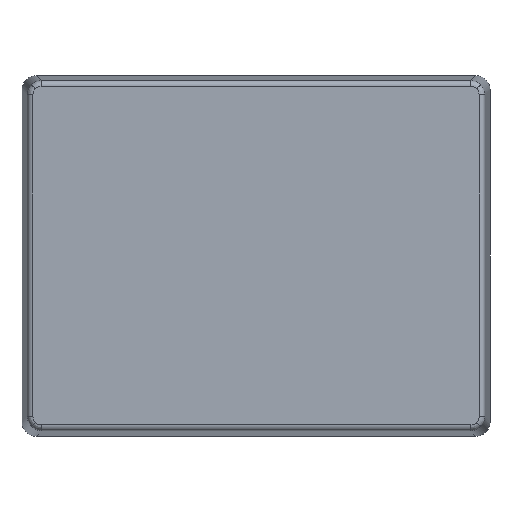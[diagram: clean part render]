
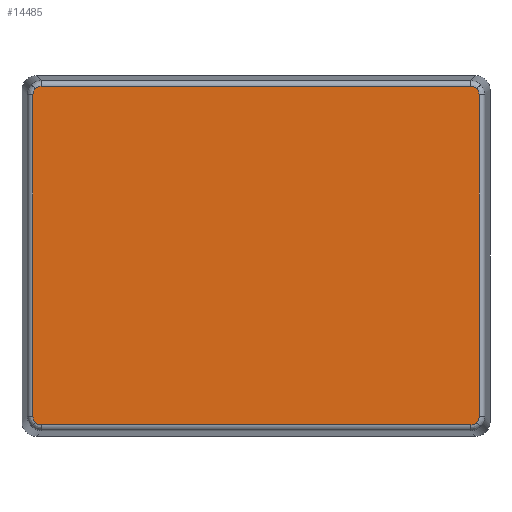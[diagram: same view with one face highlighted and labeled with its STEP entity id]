
A CAD part, top view. The second image highlights one B-rep face of the part: STEP entity #14485.
In plain terms, the highlighted planar face has unit normal (0, 0, 1).
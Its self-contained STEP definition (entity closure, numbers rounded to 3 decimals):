
#534=LINE('',#21788,#1626);
#535=LINE('',#21796,#1627);
#536=LINE('',#21804,#1628);
#537=LINE('',#21812,#1629);
#1626=VECTOR('',#16517,151.708);
#1627=VECTOR('',#16518,113.708);
#1628=VECTOR('',#16519,151.708);
#1629=VECTOR('',#16520,113.708);
#2626=PLANE('',#15389);
#2913=(
BOUNDED_CURVE()
B_SPLINE_CURVE(3,(#19455,#19456,#19457,#19458,#19459,#19460),
 .UNSPECIFIED.,.F.,.F.)
B_SPLINE_CURVE_WITH_KNOTS((4,2,4),(5.498,5.891,6.283),
 .UNSPECIFIED.)
CURVE()
GEOMETRIC_REPRESENTATION_ITEM()
RATIONAL_B_SPLINE_CURVE((1.,1.,1.,1.,1.,1.))
REPRESENTATION_ITEM('')
);
#2914=(
BOUNDED_CURVE()
B_SPLINE_CURVE(3,(#19492,#19493,#19494,#19495,#19496,#19497),
 .UNSPECIFIED.,.F.,.F.)
B_SPLINE_CURVE_WITH_KNOTS((4,2,4),(5.498,5.891,6.283),
 .UNSPECIFIED.)
CURVE()
GEOMETRIC_REPRESENTATION_ITEM()
RATIONAL_B_SPLINE_CURVE((1.,1.,1.,1.,1.,1.))
REPRESENTATION_ITEM('')
);
#2915=(
BOUNDED_CURVE()
B_SPLINE_CURVE(3,(#19529,#19530,#19531,#19532,#19533,#19534),
 .UNSPECIFIED.,.F.,.F.)
B_SPLINE_CURVE_WITH_KNOTS((4,2,4),(5.498,5.891,6.283),
 .UNSPECIFIED.)
CURVE()
GEOMETRIC_REPRESENTATION_ITEM()
RATIONAL_B_SPLINE_CURVE((1.,1.,1.,1.,1.,1.))
REPRESENTATION_ITEM('')
);
#2916=(
BOUNDED_CURVE()
B_SPLINE_CURVE(3,(#19566,#19567,#19568,#19569,#19570,#19571),
 .UNSPECIFIED.,.F.,.F.)
B_SPLINE_CURVE_WITH_KNOTS((4,2,4),(5.498,5.891,6.283),
 .UNSPECIFIED.)
CURVE()
GEOMETRIC_REPRESENTATION_ITEM()
RATIONAL_B_SPLINE_CURVE((1.,1.,1.,1.,1.,1.))
REPRESENTATION_ITEM('')
);
#2917=(
BOUNDED_CURVE()
B_SPLINE_CURVE(3,(#21790,#21791,#21792,#21793,#21794,#21795),
 .UNSPECIFIED.,.F.,.F.)
B_SPLINE_CURVE_WITH_KNOTS((4,2,4),(0.,0.393,0.785),
 .UNSPECIFIED.)
CURVE()
GEOMETRIC_REPRESENTATION_ITEM()
RATIONAL_B_SPLINE_CURVE((1.,1.,1.,1.,1.,1.))
REPRESENTATION_ITEM('')
);
#2918=(
BOUNDED_CURVE()
B_SPLINE_CURVE(3,(#21798,#21799,#21800,#21801,#21802,#21803),
 .UNSPECIFIED.,.F.,.F.)
B_SPLINE_CURVE_WITH_KNOTS((4,2,4),(0.,0.393,0.785),
 .UNSPECIFIED.)
CURVE()
GEOMETRIC_REPRESENTATION_ITEM()
RATIONAL_B_SPLINE_CURVE((1.,1.,1.,1.,1.,1.))
REPRESENTATION_ITEM('')
);
#2919=(
BOUNDED_CURVE()
B_SPLINE_CURVE(3,(#21806,#21807,#21808,#21809,#21810,#21811),
 .UNSPECIFIED.,.F.,.F.)
B_SPLINE_CURVE_WITH_KNOTS((4,2,4),(0.,0.393,
0.785),.UNSPECIFIED.)
CURVE()
GEOMETRIC_REPRESENTATION_ITEM()
RATIONAL_B_SPLINE_CURVE((1.,1.,1.,1.,1.,1.))
REPRESENTATION_ITEM('')
);
#2920=(
BOUNDED_CURVE()
B_SPLINE_CURVE(3,(#21813,#21814,#21815,#21816,#21817,#21818),
 .UNSPECIFIED.,.F.,.F.)
B_SPLINE_CURVE_WITH_KNOTS((4,2,4),(0.,0.393,0.785),
 .UNSPECIFIED.)
CURVE()
GEOMETRIC_REPRESENTATION_ITEM()
RATIONAL_B_SPLINE_CURVE((1.,1.,1.,1.,1.,1.))
REPRESENTATION_ITEM('')
);
#3897=FACE_OUTER_BOUND('',#4792,.T.);
#4792=EDGE_LOOP('',(#10156,#10157,#10158,#10159,#10160,#10161,#10162,#10163,
#10164,#10165,#10166,#10167));
#6162=VERTEX_POINT('',#19452);
#6163=VERTEX_POINT('',#19454);
#6166=VERTEX_POINT('',#19489);
#6167=VERTEX_POINT('',#19491);
#6170=VERTEX_POINT('',#19526);
#6171=VERTEX_POINT('',#19528);
#6174=VERTEX_POINT('',#19563);
#6175=VERTEX_POINT('',#19565);
#6409=VERTEX_POINT('',#21787);
#6410=VERTEX_POINT('',#21789);
#6411=VERTEX_POINT('',#21797);
#6412=VERTEX_POINT('',#21805);
#7641=EDGE_CURVE('',#6163,#6162,#2913,.T.);
#7645=EDGE_CURVE('',#6167,#6166,#2914,.T.);
#7649=EDGE_CURVE('',#6171,#6170,#2915,.T.);
#7653=EDGE_CURVE('',#6175,#6174,#2916,.T.);
#7892=EDGE_CURVE('',#6409,#6163,#534,.T.);
#7893=EDGE_CURVE('',#6162,#6410,#2917,.T.);
#7894=EDGE_CURVE('',#6410,#6167,#535,.T.);
#7895=EDGE_CURVE('',#6166,#6411,#2918,.T.);
#7896=EDGE_CURVE('',#6411,#6175,#536,.T.);
#7897=EDGE_CURVE('',#6174,#6412,#2919,.T.);
#7898=EDGE_CURVE('',#6412,#6171,#537,.T.);
#7899=EDGE_CURVE('',#6170,#6409,#2920,.T.);
#10156=ORIENTED_EDGE('',*,*,#7892,.T.);
#10157=ORIENTED_EDGE('',*,*,#7641,.T.);
#10158=ORIENTED_EDGE('',*,*,#7893,.T.);
#10159=ORIENTED_EDGE('',*,*,#7894,.T.);
#10160=ORIENTED_EDGE('',*,*,#7645,.T.);
#10161=ORIENTED_EDGE('',*,*,#7895,.T.);
#10162=ORIENTED_EDGE('',*,*,#7896,.T.);
#10163=ORIENTED_EDGE('',*,*,#7653,.T.);
#10164=ORIENTED_EDGE('',*,*,#7897,.T.);
#10165=ORIENTED_EDGE('',*,*,#7898,.T.);
#10166=ORIENTED_EDGE('',*,*,#7649,.T.);
#10167=ORIENTED_EDGE('',*,*,#7899,.T.);
#14485=ADVANCED_FACE('',(#3897),#2626,.T.);
#15389=AXIS2_PLACEMENT_3D('',#21786,#16515,#16516);
#16515=DIRECTION('center_axis',(0.,0.,1.));
#16516=DIRECTION('ref_axis',(1.,0.,0.));
#16517=DIRECTION('',(-1.,0.,0.));
#16518=DIRECTION('',(0.,-1.,0.));
#16519=DIRECTION('',(1.,0.,0.));
#16520=DIRECTION('',(0.,1.,0.));
#19452=CARTESIAN_POINT('',(-77.975,58.975,72.5));
#19454=CARTESIAN_POINT('',(-75.854,59.853,72.5));
#19455=CARTESIAN_POINT('Ctrl Pts',(-75.854,59.853,72.5));
#19456=CARTESIAN_POINT('Ctrl Pts',(-76.247,59.853,72.5));
#19457=CARTESIAN_POINT('Ctrl Pts',(-76.639,59.775,72.5));
#19458=CARTESIAN_POINT('Ctrl Pts',(-77.365,59.475,72.5));
#19459=CARTESIAN_POINT('Ctrl Pts',(-77.697,59.253,72.5));
#19460=CARTESIAN_POINT('Ctrl Pts',(-77.975,58.975,72.5));
#19489=CARTESIAN_POINT('',(-77.975,-58.975,72.5));
#19491=CARTESIAN_POINT('',(-78.853,-56.854,72.5));
#19492=CARTESIAN_POINT('Ctrl Pts',(-78.853,-56.854,
72.5));
#19493=CARTESIAN_POINT('Ctrl Pts',(-78.853,-57.247,
72.5));
#19494=CARTESIAN_POINT('Ctrl Pts',(-78.775,-57.639,
72.5));
#19495=CARTESIAN_POINT('Ctrl Pts',(-78.475,-58.365,
72.5));
#19496=CARTESIAN_POINT('Ctrl Pts',(-78.253,-58.697,
72.5));
#19497=CARTESIAN_POINT('Ctrl Pts',(-77.975,-58.975,
72.5));
#19526=CARTESIAN_POINT('',(77.975,58.975,72.5));
#19528=CARTESIAN_POINT('',(78.853,56.854,72.5));
#19529=CARTESIAN_POINT('Ctrl Pts',(78.853,56.854,72.5));
#19530=CARTESIAN_POINT('Ctrl Pts',(78.853,57.247,72.5));
#19531=CARTESIAN_POINT('Ctrl Pts',(78.775,57.639,72.5));
#19532=CARTESIAN_POINT('Ctrl Pts',(78.475,58.365,72.5));
#19533=CARTESIAN_POINT('Ctrl Pts',(78.253,58.697,72.5));
#19534=CARTESIAN_POINT('Ctrl Pts',(77.975,58.975,72.5));
#19563=CARTESIAN_POINT('',(77.975,-58.975,72.5));
#19565=CARTESIAN_POINT('',(75.854,-59.853,72.5));
#19566=CARTESIAN_POINT('Ctrl Pts',(75.854,-59.853,72.5));
#19567=CARTESIAN_POINT('Ctrl Pts',(76.247,-59.853,72.5));
#19568=CARTESIAN_POINT('Ctrl Pts',(76.639,-59.775,72.5));
#19569=CARTESIAN_POINT('Ctrl Pts',(77.365,-59.475,72.5));
#19570=CARTESIAN_POINT('Ctrl Pts',(77.697,-59.253,72.5));
#19571=CARTESIAN_POINT('Ctrl Pts',(77.975,-58.975,72.5));
#21786=CARTESIAN_POINT('Origin',(-82.7,63.7,72.5));
#21787=CARTESIAN_POINT('',(75.854,59.853,72.5));
#21788=CARTESIAN_POINT('',(75.854,59.853,72.5));
#21789=CARTESIAN_POINT('',(-78.853,56.854,72.5));
#21790=CARTESIAN_POINT('Ctrl Pts',(-77.975,58.975,72.5));
#21791=CARTESIAN_POINT('Ctrl Pts',(-78.253,58.697,72.5));
#21792=CARTESIAN_POINT('Ctrl Pts',(-78.475,58.365,72.5));
#21793=CARTESIAN_POINT('Ctrl Pts',(-78.775,57.639,72.5));
#21794=CARTESIAN_POINT('Ctrl Pts',(-78.853,57.247,72.5));
#21795=CARTESIAN_POINT('Ctrl Pts',(-78.853,56.854,72.5));
#21796=CARTESIAN_POINT('',(-78.853,56.854,72.5));
#21797=CARTESIAN_POINT('',(-75.854,-59.853,72.5));
#21798=CARTESIAN_POINT('Ctrl Pts',(-77.975,-58.975,
72.5));
#21799=CARTESIAN_POINT('Ctrl Pts',(-77.697,-59.253,
72.5));
#21800=CARTESIAN_POINT('Ctrl Pts',(-77.365,-59.475,
72.5));
#21801=CARTESIAN_POINT('Ctrl Pts',(-76.639,-59.775,
72.5));
#21802=CARTESIAN_POINT('Ctrl Pts',(-76.247,-59.853,
72.5));
#21803=CARTESIAN_POINT('Ctrl Pts',(-75.854,-59.853,
72.5));
#21804=CARTESIAN_POINT('',(-75.854,-59.853,72.5));
#21805=CARTESIAN_POINT('',(78.853,-56.854,72.5));
#21806=CARTESIAN_POINT('Ctrl Pts',(77.975,-58.975,72.5));
#21807=CARTESIAN_POINT('Ctrl Pts',(78.253,-58.697,72.5));
#21808=CARTESIAN_POINT('Ctrl Pts',(78.475,-58.365,72.5));
#21809=CARTESIAN_POINT('Ctrl Pts',(78.775,-57.639,72.5));
#21810=CARTESIAN_POINT('Ctrl Pts',(78.853,-57.247,72.5));
#21811=CARTESIAN_POINT('Ctrl Pts',(78.853,-56.854,72.5));
#21812=CARTESIAN_POINT('',(78.853,-56.854,72.5));
#21813=CARTESIAN_POINT('Ctrl Pts',(77.975,58.975,72.5));
#21814=CARTESIAN_POINT('Ctrl Pts',(77.697,59.253,72.5));
#21815=CARTESIAN_POINT('Ctrl Pts',(77.365,59.475,72.5));
#21816=CARTESIAN_POINT('Ctrl Pts',(76.639,59.775,72.5));
#21817=CARTESIAN_POINT('Ctrl Pts',(76.247,59.853,72.5));
#21818=CARTESIAN_POINT('Ctrl Pts',(75.854,59.853,72.5));
